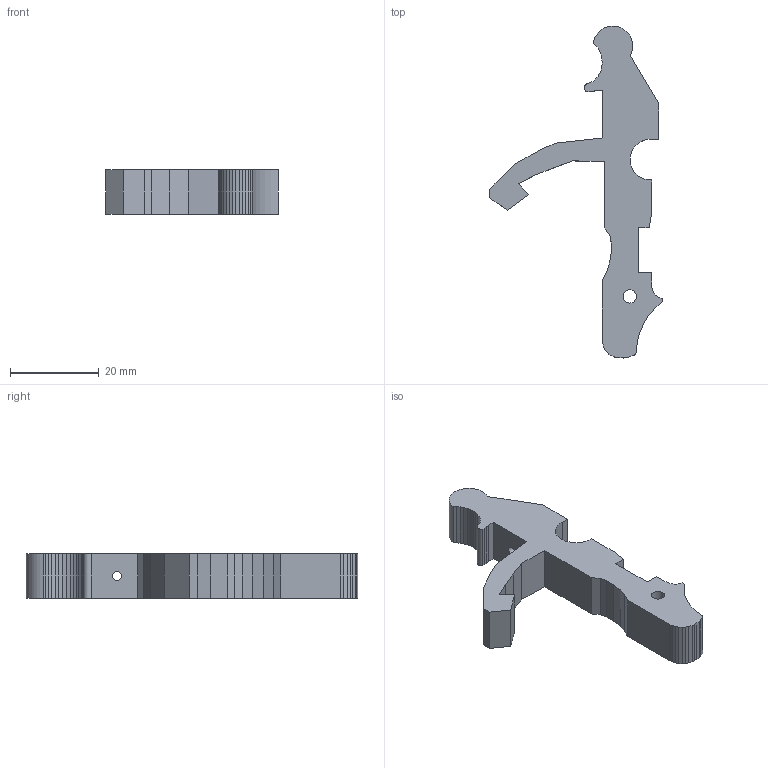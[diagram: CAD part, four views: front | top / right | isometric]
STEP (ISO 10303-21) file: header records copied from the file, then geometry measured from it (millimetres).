
FILE_DESCRIPTION((''),'2;1');
FILE_NAME('C:\MRFR\SHOCK\Hexen\STP\hammer.stp','2013-08-15T20:11:54',('mrfr'),(''),'Autodesk Inventor 2013','Autodesk Inventor 2013','');
FILE_SCHEMA(('AUTOMOTIVE_DESIGN { 1 0 10303 214 1 1 1 1 }'));
Length unit declared in the file: millimetre
Products named in the file (1): hammer
Bounding box: 38.8 x 74.71 x 10 mm (x, y, z)
Volume: 8253.4 mm3; surface area: 4275.9 mm2
Topology: 1 solids, 1 shells, 79 faces, 231 edges, 154 vertices
Faces by surface type: plane 72, cylinder 7
Full cylindrical faces by diameter (mm): 2 x1, 3 x1
Entity records: 2603 total; most frequent: CARTESIAN_POINT 463, ORIENTED_EDGE 458, DIRECTION 403, EDGE_CURVE 229, VECTOR 215, LINE 215, VERTEX_POINT 154, AXIS2_PLACEMENT_3D 94
